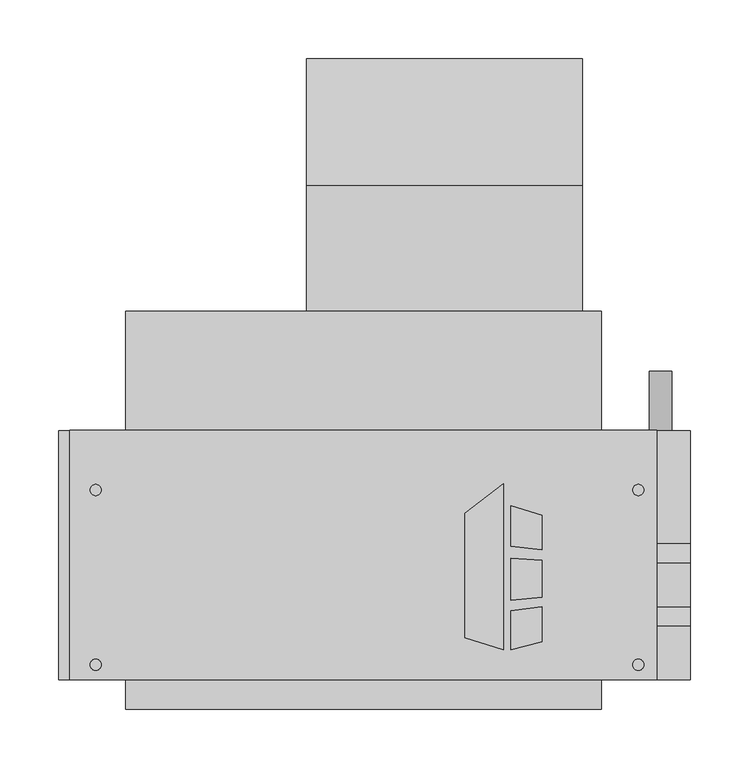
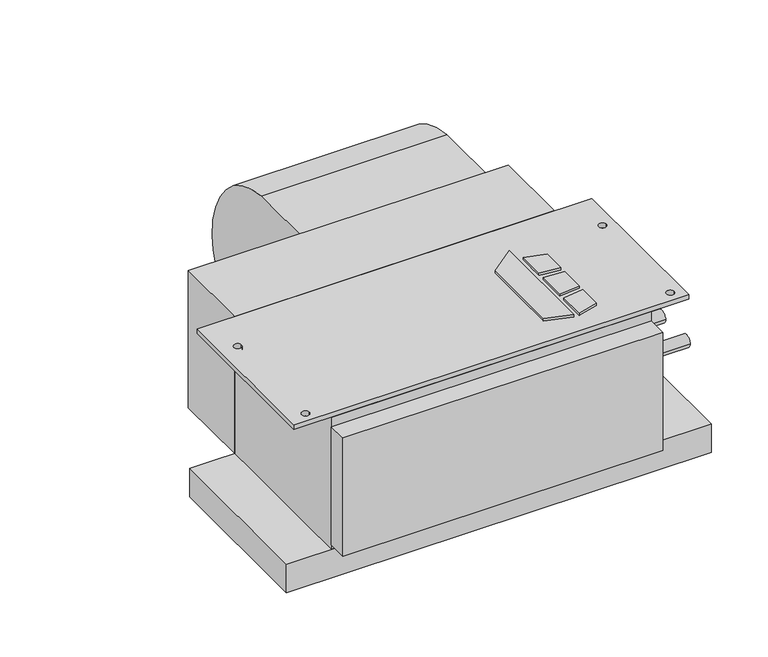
"""IFC4 building model written with IfcOpenShell, lengths in millimetres: proxy geometry, Concealed_Horizontal_Fan_Coil_Unit_-_CHY_-_IEC_-_2-Pipe_Cool-EHeat_RH_2022 : Size 02 - 277v/60Hz/1Ph - 4 Row 2.0kW."""

from ifc_helpers import new_model, si_unit, point, frame, frame_2d, origin, origin_with_axes, place, context, project, spatial, polyline, circle_curve, trimmed, segment, composite_curve, outline, extrude, source, transform, mapped, element, save


def mechanical_equipment_0b183461(model_context):
    return source(origin(), model_context, "Body", "SweptSolid", [
        extrude(outline(polyline([(239.4019761, -202.5703476), (271.9602728, -177.1330184), (271.9602728, -319.0875), (239.4019761, -308.8679201), (239.4019761, -202.5703476)])), origin_with_axes(), (0.0, 0.0, 1.0), 3.175),
        extrude(outline(polyline([(278.7186058, -230.442352), (278.7186058, -195.9624379), (304.8, -204.1490115), (304.8, -233.6447446), (278.7186058, -230.442352)])), origin_with_axes(), (0.0, 0.0, 1.0), 3.175),
        extrude(outline(polyline([(304.8, -312.0990115), (278.7186058, -319.0875), (278.7186058, -285.8661996), (304.8, -282.3243564), (304.8, -312.0990115)])), origin_with_axes(), (0.0, 0.0, 1.0), 3.175),
        extrude(outline(polyline([(304.8, -242.7263277), (304.8, -273.976483), (278.7186058, -276.717748), (278.7186058, -240.8600378), (304.8, -242.7263277)])), origin_with_axes(), (0.0, 0.0, 1.0), 3.175),
        extrude(outline(composite_curve([segment(trimmed(circle_curve(frame_2d((68.401169, -136.0299844)), 117.3559541), [point((77.7875, -19.05))], [point((185.7375, -138.176))], False, "CARTESIAN"), True, "CONTINUOUS"), segment(trimmed(circle_curve(frame_2d((90.0022663, -136.4250563)), 95.7512443), [point((185.7375, -138.176))], [point((77.7875, -231.394))], False, "CARTESIAN"), True, "CONTINUOUS"), segment(trimmed(circle_curve(frame_2d((89.9711869, -136.6666968)), 95.5076133), [point((77.7875, -231.394))], [point((-5.5245, -138.176))], False, "CARTESIAN"), True, "CONTINUOUS"), segment(trimmed(circle_curve(frame_2d((-24.6059828, -138.4775816)), 19.0838659), [point((-5.5245, -138.176))], [point((-17.7963373, -120.65))], True, "CARTESIAN"), True, "CONTINUOUS"), segment(polyline([(-17.7963373, -120.65), (-30.1625, -120.65), (-30.1625, -19.05), (77.7875, -19.05)]), True, "CONTINUOUS")], self_intersect=False)), frame((104.013, 0.0, 0.0), z_axis=(1.0, 0.0, 0.0), x_axis=(0.0, 1.0, 0.0)), (0.0, 0.0, 1.0), 235.712),
        extrude(outline(polyline([(403.225, -131.7625), (403.225, -344.4875), (-98.425, -344.4875), (-98.425, -131.7625), (403.225, -131.7625)]), holes=[composite_curve([segment(trimmed(circle_curve(frame_2d((-76.2, -182.5625)), 4.7625), [point((-80.9625, -182.5625))], [point((-71.4375, -182.5625))], True, "CARTESIAN"), True, "CONTINUOUS"), segment(trimmed(circle_curve(frame_2d((-76.2, -182.5625)), 4.7625), [point((-71.4375, -182.5625))], [point((-80.9625, -182.5625))], True, "CARTESIAN"), True, "CONTINUOUS")], self_intersect=False), composite_curve([segment(trimmed(circle_curve(frame_2d((-76.2, -331.7875)), 4.7625), [point((-80.9625, -331.7875))], [point((-71.4375, -331.7875))], True, "CARTESIAN"), True, "CONTINUOUS"), segment(trimmed(circle_curve(frame_2d((-76.2, -331.7875)), 4.7625), [point((-71.4375, -331.7875))], [point((-80.9625, -331.7875))], True, "CARTESIAN"), True, "CONTINUOUS")], self_intersect=False), composite_curve([segment(trimmed(circle_curve(frame_2d((387.35, -182.5625)), 4.7625), [point((382.5875, -182.5625))], [point((392.1125, -182.5625))], True, "CARTESIAN"), True, "CONTINUOUS"), segment(trimmed(circle_curve(frame_2d((387.35, -182.5625)), 4.7625), [point((392.1125, -182.5625))], [point((382.5875, -182.5625))], True, "CARTESIAN"), True, "CONTINUOUS")], self_intersect=False), composite_curve([segment(trimmed(circle_curve(frame_2d((387.35, -331.7875)), 4.7625), [point((382.5875, -331.7875))], [point((392.1125, -331.7875))], True, "CARTESIAN"), True, "CONTINUOUS"), segment(trimmed(circle_curve(frame_2d((387.35, -331.7875)), 4.7625), [point((392.1125, -331.7875))], [point((382.5875, -331.7875))], True, "CARTESIAN"), True, "CONTINUOUS")], self_intersect=False)]), frame((0.0, 0.0, -6.35), z_axis=(0.0, 0.0, 1.0), x_axis=(1.0, 0.0, 0.0)), (0.0, 0.0, 1.0), 6.35),
        extrude(outline(polyline([(-50.8, -30.1625), (355.6, -30.1625), (355.6, -131.7625), (-50.8, -131.7625), (-50.8, -30.1625)])), frame((0.0, 0.0, -184.15), z_axis=(0.0, 0.0, 1.0), x_axis=(1.0, 0.0, 0.0)), (0.0, 0.0, 1.0), 184.15),
        extrude(outline(composite_curve([segment(trimmed(circle_curve(frame_2d((-209.55, 406.4)), 9.525), [point((-209.55, 396.875))], [point((-209.55, 415.925))], False, "CARTESIAN"), True, "CONTINUOUS"), segment(trimmed(circle_curve(frame_2d((-209.55, 406.4)), 9.525), [point((-209.55, 415.925))], [point((-209.55, 396.875))], False, "CARTESIAN"), True, "CONTINUOUS")], self_intersect=False)), frame((0.0, -131.7625, 0.0), z_axis=(0.0, 1.0, 0.0), x_axis=(0.0, 0.0, 1.0)), (0.0, 0.0, 1.0), 50.8),
        extrude(outline(polyline([(355.6, -369.8875), (-50.8, -369.8875), (-50.8, -344.4875), (355.6, -344.4875), (355.6, -369.8875)])), frame((0.0, 0.0, -177.8), z_axis=(0.0, 0.0, 1.0), x_axis=(1.0, 0.0, 0.0)), (0.0, 0.0, 1.0), 158.75),
        extrude(outline(polyline([(431.8, -131.7625), (431.8, -344.4875), (-107.95, -344.4875), (-107.95, -131.7625), (431.8, -131.7625)])), frame((0.0, 0.0, -222.25), z_axis=(0.0, 0.0, 1.0), x_axis=(1.0, 0.0, 0.0)), (0.0, 0.0, 1.0), 38.1),
        extrude(outline(composite_curve([segment(trimmed(circle_curve(frame_2d((-290.5125, -104.775)), 7.9375), [point((-298.45, -104.775))], [point((-282.575, -104.775))], False, "CARTESIAN"), True, "CONTINUOUS"), segment(trimmed(circle_curve(frame_2d((-290.5125, -104.775)), 7.9375), [point((-282.575, -104.775))], [point((-298.45, -104.775))], False, "CARTESIAN"), True, "CONTINUOUS")], self_intersect=False)), frame((355.6, 0.0, 0.0), z_axis=(1.0, 0.0, 0.0), x_axis=(0.0, 1.0, 0.0)), (0.0, 0.0, 1.0), 76.2),
        extrude(outline(composite_curve([segment(trimmed(circle_curve(frame_2d((-236.5375, -104.775)), 7.9375), [point((-244.475, -104.775))], [point((-228.6, -104.775))], False, "CARTESIAN"), True, "CONTINUOUS"), segment(trimmed(circle_curve(frame_2d((-236.5375, -104.775)), 7.9375), [point((-228.6, -104.775))], [point((-244.475, -104.775))], False, "CARTESIAN"), True, "CONTINUOUS")], self_intersect=False)), frame((355.6, 0.0, 0.0), z_axis=(1.0, 0.0, 0.0), x_axis=(0.0, 1.0, 0.0)), (0.0, 0.0, 1.0), 76.2),
        extrude(outline(polyline([(355.6, -344.4875), (-50.8, -344.4875), (-50.8, -131.7625), (355.6, -131.7625), (355.6, -344.4875)])), frame((0.0, 0.0, -184.15), z_axis=(0.0, 0.0, 1.0), x_axis=(1.0, 0.0, 0.0)), (0.0, 0.0, 1.0), 177.8),
    ])


if __name__ == "__main__":
    model = new_model("IFC4")
    model_context = context("Model", 3, world=origin())
    ifc_project = project(units=[si_unit("LENGTHUNIT", "METRE", prefix="MILLI")], contexts=[model_context])
    site = spatial("IfcSite", under=ifc_project)
    building = spatial("IfcBuilding", under=site)
    placement = place(None, origin())
    mechanical_equipment_shape = mechanical_equipment_0b183461(model_context)
    element("IfcBuildingElementProxy", 1, Name="Concealed_Horizontal_Fan_Coil_Unit_-_CHY_-_IEC_-_2-Pipe_Cool-EHeat_RH_2022 : Size 02 - 277v/60Hz/1Ph - 4 Row 2.0kW", ObjectType="Concealed_Horizontal_Fan_Coil_Unit_-_CHY_-_IEC_-_2-Pipe_Cool-EHeat_RH_2022 : Size 02 - 277v/60Hz/1Ph - 4 Row 2.0kW", at=placement, inside=building, context=model_context, shape_type="MappedRepresentation", body=[
        mapped(mechanical_equipment_shape, transform((0.0, 0.0, 0.0), x_axis=(1.0, 0.0, 0.0), y_axis=(0.0, 1.0, 0.0), z_axis=(0.0, 0.0, 1.0))),
    ])
    save(model, "model.ifc")
